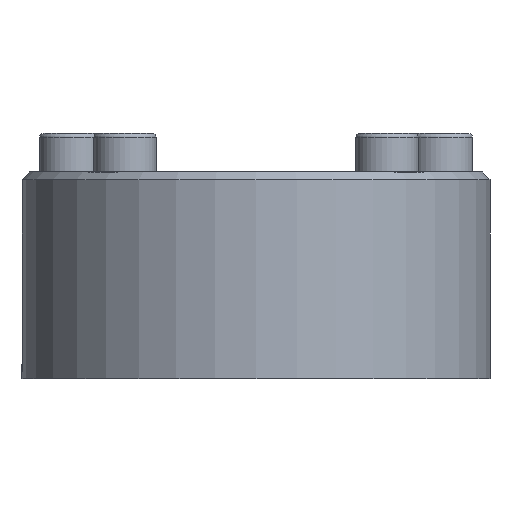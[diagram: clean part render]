
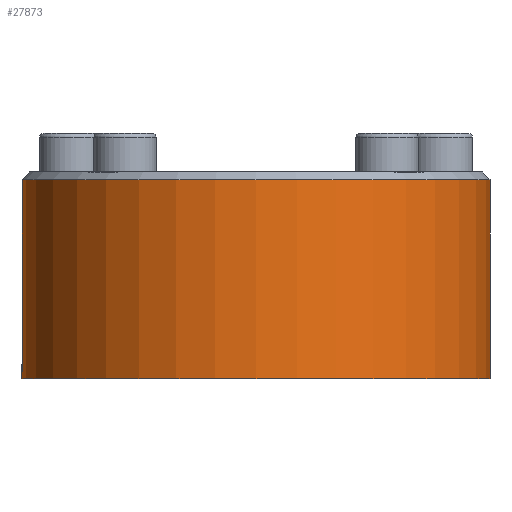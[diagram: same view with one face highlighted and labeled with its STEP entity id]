
A CAD part, front view. The second image highlights one B-rep face of the part: STEP entity #27873.
In plain terms, the highlighted cylindrical face has radius 60 mm (diameter 120 mm), a partial arc.
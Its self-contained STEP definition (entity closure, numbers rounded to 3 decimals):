
#2680=FACE_OUTER_BOUND('',#4188,.T.);
#4188=EDGE_LOOP('',(#18398,#18399,#18400,#18401));
#5910=CIRCLE('',#29384,60.);
#5911=CIRCLE('',#29385,60.);
#6014=LINE('',#35786,#8889);
#6015=LINE('',#35790,#8890);
#8889=VECTOR('',#30561,51.);
#8890=VECTOR('',#30564,51.);
#11764=VERTEX_POINT('',#35784);
#11765=VERTEX_POINT('',#35785);
#11766=VERTEX_POINT('',#35787);
#11767=VERTEX_POINT('',#35789);
#14435=EDGE_CURVE('',#11764,#11765,#6014,.T.);
#14436=EDGE_CURVE('',#11766,#11764,#5910,.T.);
#14437=EDGE_CURVE('',#11767,#11766,#6015,.T.);
#14438=EDGE_CURVE('',#11765,#11767,#5911,.T.);
#18398=ORIENTED_EDGE('',*,*,#14435,.F.);
#18399=ORIENTED_EDGE('',*,*,#14436,.F.);
#18400=ORIENTED_EDGE('',*,*,#14437,.F.);
#18401=ORIENTED_EDGE('',*,*,#14438,.F.);
#26324=CYLINDRICAL_SURFACE('',#29383,60.);
#27873=ADVANCED_FACE('',(#2680),#26324,.T.);
#29383=AXIS2_PLACEMENT_3D('',#35783,#30559,#30560);
#29384=AXIS2_PLACEMENT_3D('',#35788,#30562,#30563);
#29385=AXIS2_PLACEMENT_3D('',#35791,#30565,#30566);
#30559=DIRECTION('center_axis',(0.,0.,
1.));
#30560=DIRECTION('ref_axis',(1.,0.,0.));
#30561=DIRECTION('',(0.,0.,1.));
#30562=DIRECTION('center_axis',(0.,0.,
-1.));
#30563=DIRECTION('ref_axis',(1.,0.,0.));
#30564=DIRECTION('',(0.,0.,-1.));
#30565=DIRECTION('center_axis',(0.,0.,
1.));
#30566=DIRECTION('ref_axis',(-1.,0.,0.));
#35783=CARTESIAN_POINT('Origin',(0.,-250.,-43.25));
#35784=CARTESIAN_POINT('',(-60.,-250.,-43.25));
#35785=CARTESIAN_POINT('',(-60.,-250.,7.75));
#35786=CARTESIAN_POINT('',(-60.,-250.,-43.25));
#35787=CARTESIAN_POINT('',(60.,-250.,-43.25));
#35788=CARTESIAN_POINT('Origin',(0.,-250.,-43.25));
#35789=CARTESIAN_POINT('',(60.,-250.,7.75));
#35790=CARTESIAN_POINT('',(60.,-250.,9.75));
#35791=CARTESIAN_POINT('Origin',(0.,-250.,7.75));
